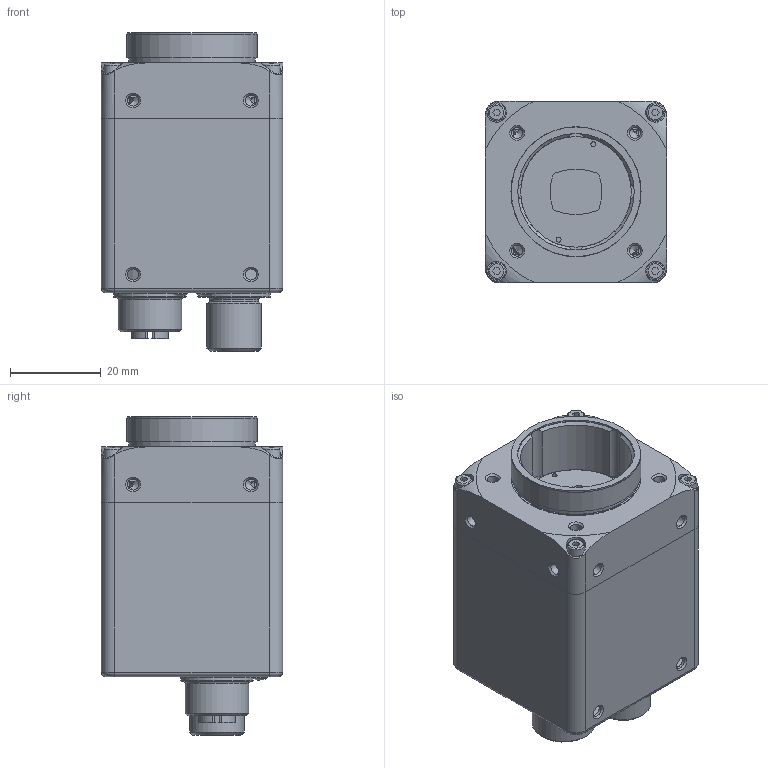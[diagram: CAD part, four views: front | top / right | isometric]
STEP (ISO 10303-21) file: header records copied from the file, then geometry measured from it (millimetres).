
FILE_DESCRIPTION( ( 'Unknown' ), '1' );
FILE_NAME( 'C:/Users/rih/Desktop/11194702_VCXG-15C.I.stp', 'Unknown', ( 'Unknown' ), ( 'Unknown' ), 'PSStep 19.0.9', 'Unknown', ' ' );
FILE_SCHEMA( ( 'AUTOMOTIVE_DESIGN { 1 0 10303 214 1 1 1 1 }' ) );
Length unit declared in the file: millimetre
Products named in the file (19): Assem1; 11096515; 11036870; 11035909; 11115191; 11096517; 11149137_Volumenmodell; M12-ST-12S-A-PIP_2130000; M12-BU-8S-PIP_1920000; 11183757_Volumenmodell; 11183759_Volumenmodell; IMX273; 11149131; 11149118; 11136125
Assembly tree (22 placements, depth 2):
  Assem1
    11096515
    11036870  x2
    11035909
    11115191  x4
    11096517
    11149137_Volumenmodell
    M12-ST-12S-A-PIP_2130000
    M12-BU-8S-PIP_1920000
    11183757_Volumenmodell
    11183759_Volumenmodell
    IMX273
    IMX273
    IMX273
    IMX273
    IMX273
    11149131
    11149118
    11136125
Bounding box: 40 x 40 x 70.25 mm (x, y, z)
Volume: 26340.9 mm3; surface area: 32273.8 mm2
Topology: 22 solids, 22 shells, 1505 faces, 3716 edges, 2479 vertices
Faces by surface type: plane 705, cylinder 570, torus 88, cone 67, sphere 36, extrusion 20, bspline 19
Full cylindrical faces by diameter (mm): 0.217 x2, 0.6 x149, 0.63 x12, 0.7 x8, 0.75 x1, 0.8 x8, 0.85 x1, 1 x3, 1.1 x14, 1.24 x8, 2 x6, 2.4 x4, 2.459 x26, 2.8 x2, 2.92 x2, 3.4 x2, 3.8 x4, 8 x2, 8.25 x1, 8.3 x1, 8.4 x1, 8.9 x1, 9 x1, 9.3 x2, 9.4 x1, 10 x1, 10.2 x1, 10.75 x1, 11 x1, 12 x3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
Entity records: 55221 total; most frequent: CARTESIAN_POINT 11737, DIRECTION 6688, ORIENTED_EDGE 5764, EDGE_CURVE 2882, AXIS2_PLACEMENT_3D 2668, EDGE_LOOP 2134, VERTEX_POINT 2130, FACE_OUTER_BOUND 1782
